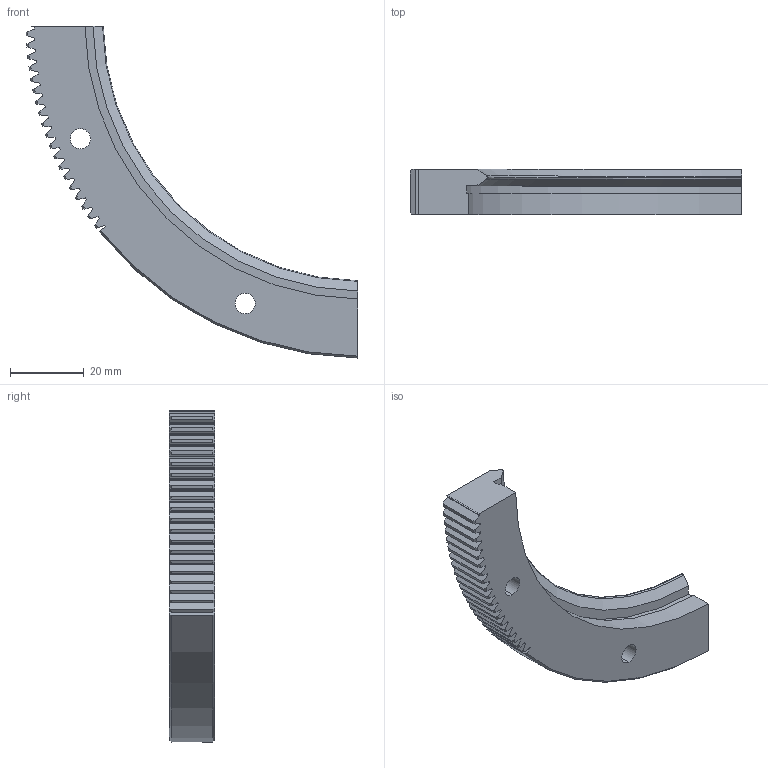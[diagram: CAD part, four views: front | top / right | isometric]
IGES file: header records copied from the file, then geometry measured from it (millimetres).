
Start section: 3D InterOp IGES (v. 2020 1.0.1), Spatial Corp. Copyright (c) 1999-2017.
Global section: file name: ris_182_r90_p.igs; native system: Spatial Corp.; preprocessor: 3D InterOp ACIS/IGES; author: TraceParts; organization: TraceParts S.A.; date: 20220624.060307; units: millimetre
Bounding box: 89.96 x 12.25 x 89.99 mm (x, y, z)
Surface area: 9604.3 mm2 (no closed solid volume)
Topology: 0 solids, 0 shells, 161 faces, 942 edges, 942 vertices
Faces by surface type: extrusion 106, revolution 55
